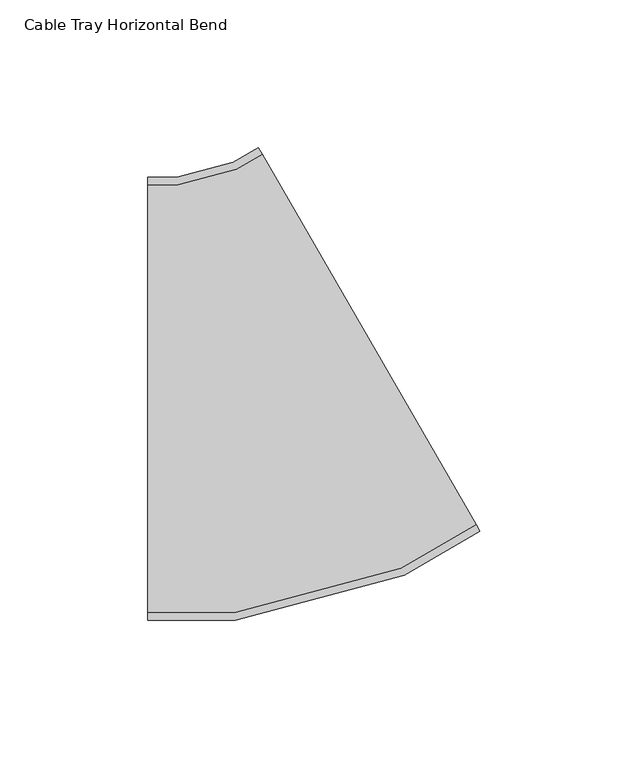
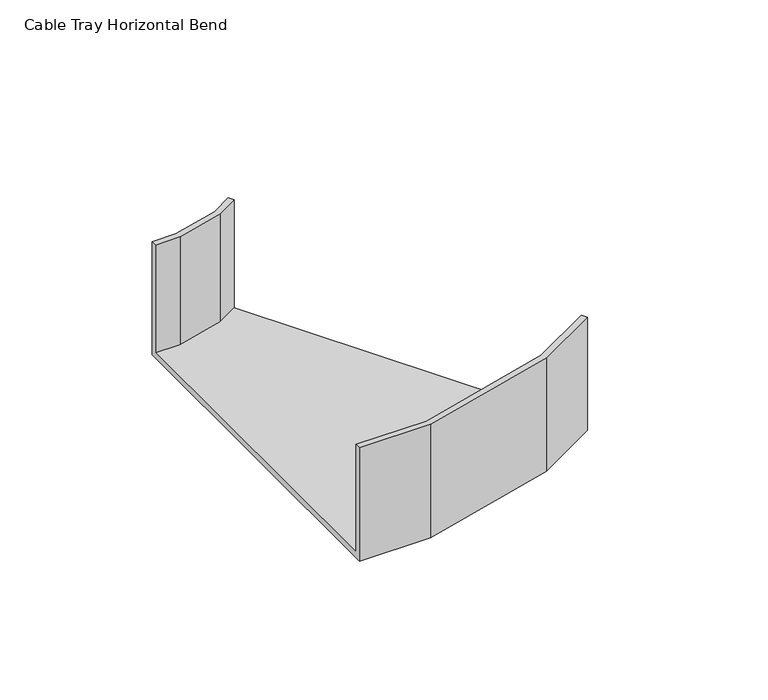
"""IFC4 building model written with IfcOpenShell, lengths in millimetres: cable carrier fitting geometry, Cable Tray Horizontal Bend : ELEC_ELV_CT_N2402."""

from ifc_helpers import new_model, si_unit, origin, place, context, project, spatial, faceted_brep, source, transform, mapped, element, save


def cable_tray_horizontal_bend_4a9e27ca(model_context):
    return source(origin(), model_context, "Body", "Brep", [
        faceted_brep([(-40.1923791, -75.0, -25.0), (-40.1923791, -75.0, 25.0), (-40.1923791, -72.46, 25.0), (-40.1923791, -72.46, -22.46), (-40.1923791, 72.46, -22.46), (-40.1923791, 72.46, 25.0), (-40.1923791, 75.0, 25.0), (-40.1923791, 75.0, -25.0), (72.3076215, -44.8557155, -25.0), (-2.6923789, 85.0480948, -25.0), (-2.6923789, 85.0480948, 25.0), (-1.4223789, 82.8483903, 25.0), (-1.4223789, 82.8483903, -22.46), (71.0376215, -42.656011, -22.46), (71.0376215, -42.656011, 25.0), (72.3076215, -44.8557155, 25.0), (-10.570567, -75.0, -25.0), (-10.570567, -75.0, 25.0), (46.6543797, -59.6666217, 25.0), (45.6739763, -57.2997185, 25.0), (-10.9049643, -72.46, 25.0), (-10.9049643, -72.46, -22.46), (45.6739763, -57.2997185, -22.46), (-10.2630561, 77.7442229, -22.46), (-29.9840444, 72.46, -22.46), (-29.9840444, 72.46, 25.0), (-10.2630561, 77.7442229, 25.0), (-11.2434595, 80.1111261, 25.0), (-30.3184417, 75.0, 25.0), (-30.3184417, 75.0, -25.0), (-11.2434595, 80.1111261, -25.0), (46.6543797, -59.6666217, -25.0)], [[[0, 1, 2, 3, 4, 5, 6, 7]], [[8, 9, 10, 11, 12, 13, 14, 15]], [[1, 0, 16, 17]], [[2, 1, 17, 18, 15, 14, 19, 20]], [[3, 2, 20, 21]], [[4, 3, 21, 22, 13, 12, 23, 24]], [[5, 4, 24, 25]], [[6, 5, 25, 26, 11, 10, 27, 28]], [[7, 6, 28, 29]], [[0, 7, 29, 30, 9, 8, 31, 16]], [[17, 16, 31, 18]], [[21, 20, 19, 22]], [[25, 24, 23, 26]], [[29, 28, 27, 30]], [[18, 31, 8, 15]], [[22, 19, 14, 13]], [[26, 23, 12, 11]], [[30, 27, 10, 9]]]),
    ])


if __name__ == "__main__":
    model = new_model("IFC4")
    model_context = context("Model", 3, world=origin())
    ifc_project = project(units=[si_unit("LENGTHUNIT", "METRE", prefix="MILLI")], contexts=[model_context])
    site = spatial("IfcSite", under=ifc_project)
    building = spatial("IfcBuilding", under=site)
    placement = place(None, origin())
    cable_tray_horizontal_bend_shape = cable_tray_horizontal_bend_4a9e27ca(model_context)
    element("IfcCableCarrierFitting", 1, ObjectType="Cable Tray Horizontal Bend : ELEC_ELV_CT_N2402", at=placement, inside=building, context=model_context, shape_type="MappedRepresentation", body=[
        mapped(cable_tray_horizontal_bend_shape, transform((0.0, 0.0, 0.0), x_axis=(1.0, 0.0, 0.0), y_axis=(0.0, 1.0, 0.0), z_axis=(0.0, 0.0, 1.0))),
    ])
    save(model, "model.ifc")
